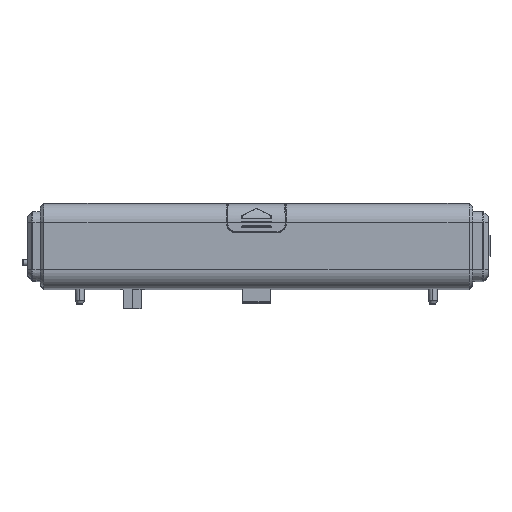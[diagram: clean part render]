
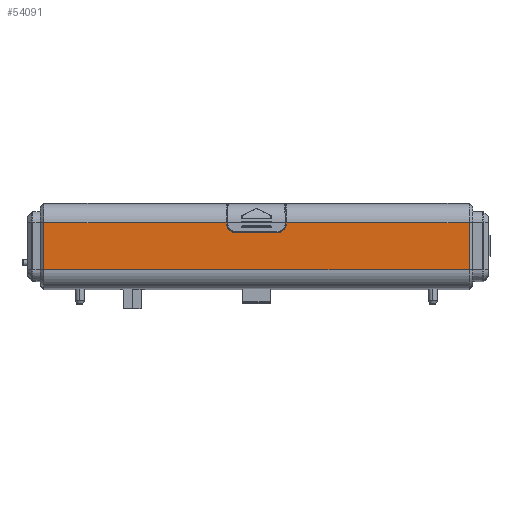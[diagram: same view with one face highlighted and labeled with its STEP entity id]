
A CAD part, top view. The second image highlights one B-rep face of the part: STEP entity #54091.
In plain terms, the highlighted planar face has unit normal (0, 0, 1).
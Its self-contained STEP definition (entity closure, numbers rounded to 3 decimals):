
#1634=DIRECTION('',(0.,-1.,0.));
#1635=VECTOR('',#1634,16.);
#1636=CARTESIAN_POINT('',(145.8,149.4,196.));
#1637=LINE('',#1636,#1635);
#1638=DIRECTION('',(0.,1.,0.));
#1639=VECTOR('',#1638,16.);
#1640=CARTESIAN_POINT('',(1.2,133.4,196.));
#1641=LINE('',#1640,#1639);
#1642=DIRECTION('',(0.,-1.,0.));
#1643=VECTOR('',#1642,0.5);
#1644=CARTESIAN_POINT('',(63.4,149.4,196.));
#1645=LINE('',#1644,#1643);
#1646=CARTESIAN_POINT('',(66.4,148.9,196.));
#1647=DIRECTION('',(0.,0.,1.));
#1648=DIRECTION('',(-1.,0.,0.));
#1649=AXIS2_PLACEMENT_3D('',#1646,#1647,#1648);
#1651=CARTESIAN_POINT('',(80.6,148.9,196.));
#1652=DIRECTION('',(0.,0.,1.));
#1653=DIRECTION('',(0.,-1.,0.));
#1654=AXIS2_PLACEMENT_3D('',#1651,#1652,#1653);
#1656=DIRECTION('',(0.,1.,0.));
#1657=VECTOR('',#1656,0.5);
#1658=CARTESIAN_POINT('',(83.6,148.9,196.));
#1659=LINE('',#1658,#1657);
#1769=DIRECTION('',(-1.,0.,0.));
#1770=VECTOR('',#1769,62.2);
#1771=CARTESIAN_POINT('',(145.8,149.4,196.));
#1772=LINE('',#1771,#1770);
#34997=DIRECTION('',(1.,0.,0.));
#34998=VECTOR('',#34997,144.6);
#34999=CARTESIAN_POINT('',(1.2,133.4,196.));
#35000=LINE('',#34999,#34998);
#35018=DIRECTION('',(-1.,0.,0.));
#35019=VECTOR('',#35018,62.2);
#35020=CARTESIAN_POINT('',(63.4,149.4,196.));
#35021=LINE('',#35020,#35019);
#35034=DIRECTION('',(-1.,0.,0.));
#35035=VECTOR('',#35034,14.2);
#35036=CARTESIAN_POINT('',(80.6,145.9,196.));
#35037=LINE('',#35036,#35035);
#41314=CARTESIAN_POINT('',(83.6,149.4,196.));
#41315=VERTEX_POINT('',#41314);
#41316=CARTESIAN_POINT('',(83.6,148.9,196.));
#41317=VERTEX_POINT('',#41316);
#41526=CARTESIAN_POINT('',(1.2,133.4,196.));
#41527=VERTEX_POINT('',#41526);
#41528=CARTESIAN_POINT('',(1.2,149.4,196.));
#41529=VERTEX_POINT('',#41528);
#41544=CARTESIAN_POINT('',(63.4,148.9,196.));
#41545=VERTEX_POINT('',#41544);
#41546=CARTESIAN_POINT('',(63.4,149.4,196.));
#41547=VERTEX_POINT('',#41546);
#41817=CARTESIAN_POINT('',(80.6,145.9,196.));
#41818=VERTEX_POINT('',#41817);
#41819=CARTESIAN_POINT('',(145.8,149.4,196.));
#41820=CARTESIAN_POINT('',(145.8,133.4,196.));
#41821=VERTEX_POINT('',#41819);
#41822=VERTEX_POINT('',#41820);
#41823=CARTESIAN_POINT('',(66.4,145.9,196.));
#41824=VERTEX_POINT('',#41823);
#54068=CARTESIAN_POINT('',(73.5,141.4,196.));
#54069=DIRECTION('',(0.,0.,1.));
#54070=DIRECTION('',(0.,-1.,0.));
#54071=AXIS2_PLACEMENT_3D('',#54068,#54069,#54070);
#54072=PLANE('',#54071);
#54074=ORIENTED_EDGE('',*,*,#54073,.T.);
#54076=ORIENTED_EDGE('',*,*,#54075,.F.);
#54077=ORIENTED_EDGE('',*,*,#52643,.T.);
#54079=ORIENTED_EDGE('',*,*,#54078,.F.);
#54080=ORIENTED_EDGE('',*,*,#52717,.T.);
#54082=ORIENTED_EDGE('',*,*,#54081,.T.);
#54084=ORIENTED_EDGE('',*,*,#54083,.F.);
#54085=ORIENTED_EDGE('',*,*,#54061,.T.);
#54086=ORIENTED_EDGE('',*,*,#52192,.T.);
#54088=ORIENTED_EDGE('',*,*,#54087,.F.);
#54089=EDGE_LOOP('',(#54074,#54076,#54077,#54079,#54080,#54082,#54084,#54085,
#54086,#54088));
#54090=FACE_OUTER_BOUND('',#54089,.F.);
#54091=ADVANCED_FACE('',(#54090),#54072,.T.);
#1650=CIRCLE('',#1649,3.);
#1655=CIRCLE('',#1654,3.);
#52192=EDGE_CURVE('',#41317,#41315,#1659,.T.);
#52643=EDGE_CURVE('',#41527,#41529,#1641,.T.);
#52717=EDGE_CURVE('',#41547,#41545,#1645,.T.);
#54061=EDGE_CURVE('',#41818,#41317,#1655,.T.);
#54073=EDGE_CURVE('',#41821,#41822,#1637,.T.);
#54075=EDGE_CURVE('',#41527,#41822,#35000,.T.);
#54078=EDGE_CURVE('',#41547,#41529,#35021,.T.);
#54081=EDGE_CURVE('',#41545,#41824,#1650,.T.);
#54083=EDGE_CURVE('',#41818,#41824,#35037,.T.);
#54087=EDGE_CURVE('',#41821,#41315,#1772,.T.);
